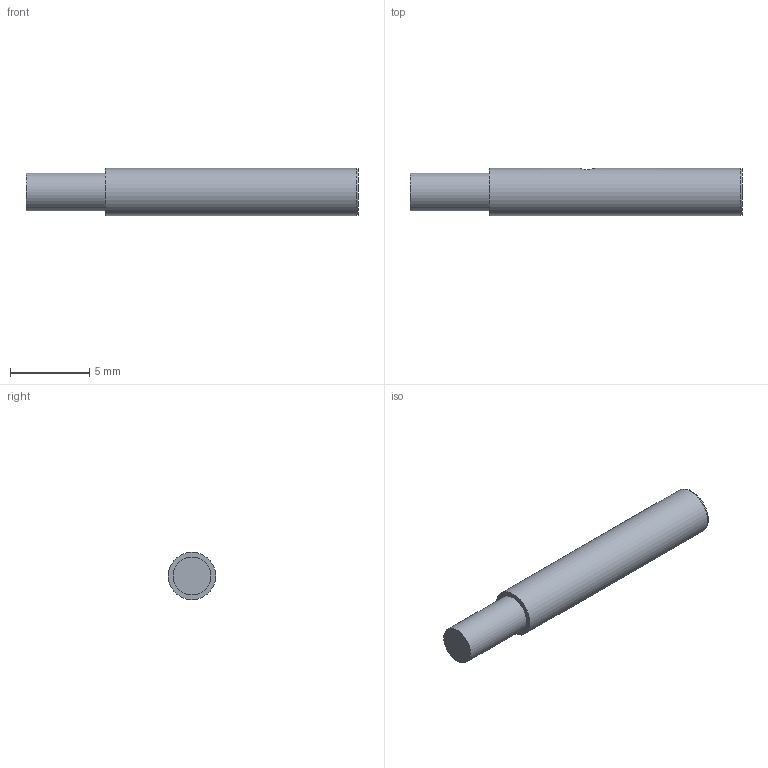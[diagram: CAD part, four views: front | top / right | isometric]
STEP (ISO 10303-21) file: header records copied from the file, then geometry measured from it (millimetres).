
FILE_DESCRIPTION( ( 'Unknown' ), '1' );
FILE_NAME( 'X:/SolidEdge/Models/Dokumentationen/Induktiv/IxRx 03/Vereinfachte Modelle/Neutralformate/IFRM 03xx713_L.stp', 'Unknown', ( 'Unknown' ), ( 'Unknown' ), 'PSStep 15.0.49', 'Unknown', ' ' );
FILE_SCHEMA( ( 'AUTOMOTIVE_DESIGN { 1 0 10303 214 1 1 1 1 }' ) );
Length unit declared in the file: millimetre
Products named in the file (1): 11165858
Bounding box: 20.99 x 3 x 3 mm (x, y, z)
Volume: 135.5 mm3; surface area: 203.2 mm2
Topology: 1 solids, 1 shells, 9 faces, 14 edges, 10 vertices
Faces by surface type: cylinder 5, plane 4
Full cylindrical faces by diameter (mm): 1 x1, 2.4 x1, 2.93 x1, 3 x1
Entity records: 262 total; most frequent: CARTESIAN_POINT 64, DIRECTION 32, AXIS2_PLACEMENT_3D 16, EDGE_LOOP 16, ORIENTED_EDGE 16, FACE_OUTER_BOUND 13, ADVANCED_FACE 9, EDGE_CURVE 8
